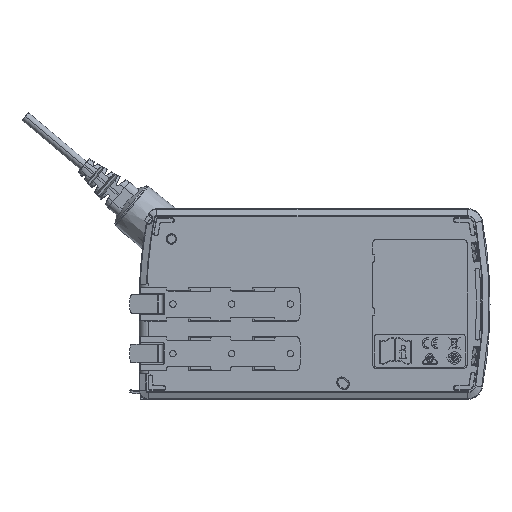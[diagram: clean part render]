
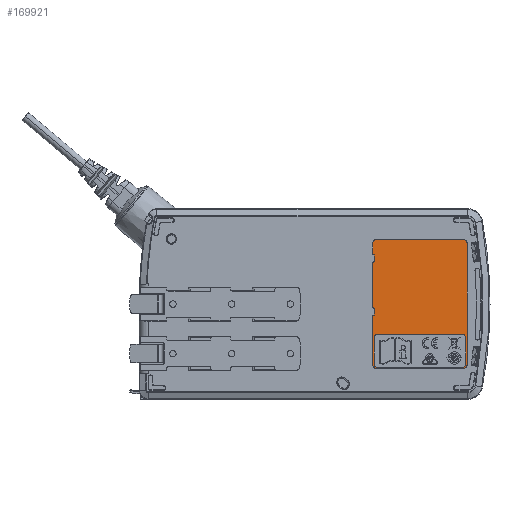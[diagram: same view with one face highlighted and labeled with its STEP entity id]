
A CAD part, front view. The second image highlights one B-rep face of the part: STEP entity #169921.
In plain terms, the highlighted planar face has unit normal (0, -1, 0).
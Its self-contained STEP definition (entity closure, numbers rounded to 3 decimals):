
#56695=DIRECTION('',(1.,0.,0.));
#56696=VECTOR('',#56695,56.);
#56697=CARTESIAN_POINT('',(21.5,-6.5,-42.5));
#56698=LINE('',#56697,#56696);
#56711=DIRECTION('',(0.,0.,-1.));
#56712=VECTOR('',#56711,32.);
#56713=CARTESIAN_POINT('',(18.5,-6.5,-7.5));
#56714=LINE('',#56713,#56712);
#56719=DIRECTION('',(-1.,0.,0.));
#56720=VECTOR('',#56719,0.7);
#56721=CARTESIAN_POINT('',(19.2,-6.5,-7.5));
#56722=LINE('',#56721,#56720);
#56739=DIRECTION('',(0.,0.,-1.));
#56740=VECTOR('',#56739,4.4);
#56741=CARTESIAN_POINT('',(19.5,-6.5,-2.8));
#56742=LINE('',#56741,#56740);
#56755=DIRECTION('',(1.,0.,0.));
#56756=VECTOR('',#56755,0.7);
#56757=CARTESIAN_POINT('',(18.5,-6.5,-2.5));
#56758=LINE('',#56757,#56756);
#56763=DIRECTION('',(0.,0.,-1.));
#56764=VECTOR('',#56763,30.);
#56765=CARTESIAN_POINT('',(18.5,-6.5,27.5));
#56766=LINE('',#56765,#56764);
#56775=DIRECTION('',(-1.,0.,0.));
#56776=VECTOR('',#56775,0.7);
#56777=CARTESIAN_POINT('',(19.2,-6.5,27.5));
#56778=LINE('',#56777,#56776);
#56795=DIRECTION('',(0.,0.,-1.));
#56796=VECTOR('',#56795,4.4);
#56797=CARTESIAN_POINT('',(19.5,-6.5,32.2));
#56798=LINE('',#56797,#56796);
#56811=DIRECTION('',(1.,0.,0.));
#56812=VECTOR('',#56811,0.7);
#56813=CARTESIAN_POINT('',(18.5,-6.5,32.5));
#56814=LINE('',#56813,#56812);
#56819=DIRECTION('',(0.,0.,-1.));
#56820=VECTOR('',#56819,7.);
#56821=CARTESIAN_POINT('',(18.5,-6.5,39.5));
#56822=LINE('',#56821,#56820);
#56839=DIRECTION('',(-1.,0.,0.));
#56840=VECTOR('',#56839,56.);
#56841=CARTESIAN_POINT('',(77.5,-6.5,42.5));
#56842=LINE('',#56841,#56840);
#56855=DIRECTION('',(0.,0.,1.));
#56856=VECTOR('',#56855,79.);
#56857=CARTESIAN_POINT('',(80.5,-6.5,-39.5));
#56858=LINE('',#56857,#56856);
#56859=CARTESIAN_POINT('',(77.5,-6.5,-39.5));
#56860=DIRECTION('',(0.,1.,0.));
#56861=DIRECTION('',(1.,0.,0.));
#56862=AXIS2_PLACEMENT_3D('',#56859,#56860,#56861);
#56864=CARTESIAN_POINT('',(21.5,-6.5,-39.5));
#56865=DIRECTION('',(0.,1.,0.));
#56866=DIRECTION('',(0.,0.,-1.));
#56867=AXIS2_PLACEMENT_3D('',#56864,#56865,#56866);
#56869=CARTESIAN_POINT('',(19.2,-6.5,-7.2));
#56870=DIRECTION('',(0.,-1.,0.));
#56871=DIRECTION('',(0.,0.,-1.));
#56872=AXIS2_PLACEMENT_3D('',#56869,#56870,#56871);
#56874=CARTESIAN_POINT('',(19.2,-6.5,-2.8));
#56875=DIRECTION('',(0.,-1.,0.));
#56876=DIRECTION('',(1.,0.,0.));
#56877=AXIS2_PLACEMENT_3D('',#56874,#56875,#56876);
#56879=CARTESIAN_POINT('',(19.2,-6.5,27.8));
#56880=DIRECTION('',(0.,-1.,0.));
#56881=DIRECTION('',(0.,0.,-1.));
#56882=AXIS2_PLACEMENT_3D('',#56879,#56880,#56881);
#56884=CARTESIAN_POINT('',(19.2,-6.5,32.2));
#56885=DIRECTION('',(0.,-1.,0.));
#56886=DIRECTION('',(1.,0.,0.));
#56887=AXIS2_PLACEMENT_3D('',#56884,#56885,#56886);
#56889=CARTESIAN_POINT('',(21.5,-6.5,39.5));
#56890=DIRECTION('',(0.,1.,0.));
#56891=DIRECTION('',(-1.,0.,0.));
#56892=AXIS2_PLACEMENT_3D('',#56889,#56890,#56891);
#56894=CARTESIAN_POINT('',(77.5,-6.5,39.5));
#56895=DIRECTION('',(0.,1.,0.));
#56896=DIRECTION('',(0.,0.,1.));
#56897=AXIS2_PLACEMENT_3D('',#56894,#56895,#56896);
#56899=CARTESIAN_POINT('',(21.5,-6.5,-22.));
#56900=DIRECTION('',(0.,-1.,0.));
#56901=DIRECTION('',(0.,0.,1.));
#56902=AXIS2_PLACEMENT_3D('',#56899,#56900,#56901);
#56904=DIRECTION('',(0.,0.,-1.));
#56905=VECTOR('',#56904,17.5);
#56906=CARTESIAN_POINT('',(19.5,-6.5,-22.));
#56907=LINE('',#56906,#56905);
#56908=CARTESIAN_POINT('',(21.5,-6.5,-39.5));
#56909=DIRECTION('',(0.,-1.,0.));
#56910=DIRECTION('',(-1.,0.,0.));
#56911=AXIS2_PLACEMENT_3D('',#56908,#56909,#56910);
#56913=DIRECTION('',(1.,0.,0.));
#56914=VECTOR('',#56913,56.);
#56915=CARTESIAN_POINT('',(21.5,-6.5,-41.5));
#56916=LINE('',#56915,#56914);
#56917=CARTESIAN_POINT('',(77.5,-6.5,-39.5));
#56918=DIRECTION('',(0.,-1.,0.));
#56919=DIRECTION('',(0.,0.,-1.));
#56920=AXIS2_PLACEMENT_3D('',#56917,#56918,#56919);
#56922=DIRECTION('',(0.,0.,1.));
#56923=VECTOR('',#56922,17.5);
#56924=CARTESIAN_POINT('',(79.5,-6.5,-39.5));
#56925=LINE('',#56924,#56923);
#56926=CARTESIAN_POINT('',(77.5,-6.5,-22.));
#56927=DIRECTION('',(0.,-1.,0.));
#56928=DIRECTION('',(1.,0.,0.));
#56929=AXIS2_PLACEMENT_3D('',#56926,#56927,#56928);
#56931=DIRECTION('',(-1.,0.,0.));
#56932=VECTOR('',#56931,56.);
#56933=CARTESIAN_POINT('',(77.5,-6.5,-20.));
#56934=LINE('',#56933,#56932);
#77563=CARTESIAN_POINT('',(77.5,-6.5,-42.5));
#77564=VERTEX_POINT('',#77563);
#77565=CARTESIAN_POINT('',(80.5,-6.5,-39.5));
#77566=VERTEX_POINT('',#77565);
#77567=CARTESIAN_POINT('',(21.5,-6.5,-42.5));
#77568=VERTEX_POINT('',#77567);
#77569=CARTESIAN_POINT('',(18.5,-6.5,-39.5));
#77570=VERTEX_POINT('',#77569);
#77571=CARTESIAN_POINT('',(18.5,-6.5,-7.5));
#77572=VERTEX_POINT('',#77571);
#77573=CARTESIAN_POINT('',(19.2,-6.5,-7.5));
#77574=VERTEX_POINT('',#77573);
#77575=CARTESIAN_POINT('',(19.5,-6.5,-7.2));
#77576=VERTEX_POINT('',#77575);
#77577=CARTESIAN_POINT('',(19.5,-6.5,-2.8));
#77578=VERTEX_POINT('',#77577);
#77579=CARTESIAN_POINT('',(19.2,-6.5,-2.5));
#77580=VERTEX_POINT('',#77579);
#77581=CARTESIAN_POINT('',(18.5,-6.5,-2.5));
#77582=VERTEX_POINT('',#77581);
#77583=CARTESIAN_POINT('',(18.5,-6.5,27.5));
#77584=VERTEX_POINT('',#77583);
#77585=CARTESIAN_POINT('',(19.2,-6.5,27.5));
#77586=VERTEX_POINT('',#77585);
#77587=CARTESIAN_POINT('',(19.5,-6.5,27.8));
#77588=VERTEX_POINT('',#77587);
#77589=CARTESIAN_POINT('',(19.5,-6.5,32.2));
#77590=VERTEX_POINT('',#77589);
#77591=CARTESIAN_POINT('',(19.2,-6.5,32.5));
#77592=VERTEX_POINT('',#77591);
#77593=CARTESIAN_POINT('',(18.5,-6.5,32.5));
#77594=VERTEX_POINT('',#77593);
#77595=CARTESIAN_POINT('',(18.5,-6.5,39.5));
#77596=VERTEX_POINT('',#77595);
#77597=CARTESIAN_POINT('',(21.5,-6.5,42.5));
#77598=VERTEX_POINT('',#77597);
#77599=CARTESIAN_POINT('',(77.5,-6.5,42.5));
#77600=VERTEX_POINT('',#77599);
#77601=CARTESIAN_POINT('',(80.5,-6.5,39.5));
#77602=VERTEX_POINT('',#77601);
#77603=CARTESIAN_POINT('',(21.5,-6.5,-20.));
#77604=CARTESIAN_POINT('',(19.5,-6.5,-22.));
#77605=VERTEX_POINT('',#77603);
#77606=VERTEX_POINT('',#77604);
#77607=CARTESIAN_POINT('',(19.5,-6.5,-39.5));
#77608=VERTEX_POINT('',#77607);
#77609=CARTESIAN_POINT('',(21.5,-6.5,-41.5));
#77610=VERTEX_POINT('',#77609);
#77611=CARTESIAN_POINT('',(77.5,-6.5,-41.5));
#77612=VERTEX_POINT('',#77611);
#77613=CARTESIAN_POINT('',(79.5,-6.5,-39.5));
#77614=VERTEX_POINT('',#77613);
#77615=CARTESIAN_POINT('',(79.5,-6.5,-22.));
#77616=VERTEX_POINT('',#77615);
#77617=CARTESIAN_POINT('',(77.5,-6.5,-20.));
#77618=VERTEX_POINT('',#77617);
#169876=CARTESIAN_POINT('',(49.5,-6.5,0.));
#169877=DIRECTION('',(0.,1.,0.));
#169878=DIRECTION('',(1.,0.,0.));
#169879=AXIS2_PLACEMENT_3D('',#169876,#169877,#169878);
#169880=PLANE('',#169879);
#169881=ORIENTED_EDGE('',*,*,#169604,.T.);
#169882=ORIENTED_EDGE('',*,*,#169619,.F.);
#169883=ORIENTED_EDGE('',*,*,#169633,.T.);
#169884=ORIENTED_EDGE('',*,*,#169647,.F.);
#169885=ORIENTED_EDGE('',*,*,#169661,.F.);
#169886=ORIENTED_EDGE('',*,*,#169675,.T.);
#169887=ORIENTED_EDGE('',*,*,#169689,.F.);
#169888=ORIENTED_EDGE('',*,*,#169703,.T.);
#169889=ORIENTED_EDGE('',*,*,#169717,.F.);
#169890=ORIENTED_EDGE('',*,*,#169731,.F.);
#169891=ORIENTED_EDGE('',*,*,#169745,.F.);
#169892=ORIENTED_EDGE('',*,*,#169759,.T.);
#169893=ORIENTED_EDGE('',*,*,#169773,.F.);
#169894=ORIENTED_EDGE('',*,*,#169787,.T.);
#169895=ORIENTED_EDGE('',*,*,#169801,.F.);
#169896=ORIENTED_EDGE('',*,*,#169815,.F.);
#169897=ORIENTED_EDGE('',*,*,#169829,.T.);
#169898=ORIENTED_EDGE('',*,*,#169843,.F.);
#169899=ORIENTED_EDGE('',*,*,#169857,.T.);
#169900=ORIENTED_EDGE('',*,*,#169870,.F.);
#169901=EDGE_LOOP('',(#169881,#169882,#169883,#169884,#169885,#169886,#169887,
#169888,#169889,#169890,#169891,#169892,#169893,#169894,#169895,#169896,#169897,
#169898,#169899,#169900));
#169902=FACE_OUTER_BOUND('',#169901,.F.);
#169904=ORIENTED_EDGE('',*,*,#169903,.T.);
#169906=ORIENTED_EDGE('',*,*,#169905,.T.);
#169908=ORIENTED_EDGE('',*,*,#169907,.T.);
#169910=ORIENTED_EDGE('',*,*,#169909,.T.);
#169912=ORIENTED_EDGE('',*,*,#169911,.T.);
#169914=ORIENTED_EDGE('',*,*,#169913,.T.);
#169916=ORIENTED_EDGE('',*,*,#169915,.T.);
#169918=ORIENTED_EDGE('',*,*,#169917,.T.);
#169919=EDGE_LOOP('',(#169904,#169906,#169908,#169910,#169912,#169914,#169916,
#169918));
#169920=FACE_BOUND('',#169919,.F.);
#56863=CIRCLE('',#56862,3.);
#56868=CIRCLE('',#56867,3.);
#56873=CIRCLE('',#56872,0.3);
#56878=CIRCLE('',#56877,0.3);
#56883=CIRCLE('',#56882,0.3);
#56888=CIRCLE('',#56887,0.3);
#56893=CIRCLE('',#56892,3.);
#56898=CIRCLE('',#56897,3.);
#56903=CIRCLE('',#56902,2.);
#56912=CIRCLE('',#56911,2.);
#56921=CIRCLE('',#56920,2.);
#56930=CIRCLE('',#56929,2.);
#169604=EDGE_CURVE('',#77566,#77564,#56863,.T.);
#169619=EDGE_CURVE('',#77568,#77564,#56698,.T.);
#169633=EDGE_CURVE('',#77568,#77570,#56868,.T.);
#169647=EDGE_CURVE('',#77572,#77570,#56714,.T.);
#169661=EDGE_CURVE('',#77574,#77572,#56722,.T.);
#169675=EDGE_CURVE('',#77574,#77576,#56873,.T.);
#169689=EDGE_CURVE('',#77578,#77576,#56742,.T.);
#169703=EDGE_CURVE('',#77578,#77580,#56878,.T.);
#169717=EDGE_CURVE('',#77582,#77580,#56758,.T.);
#169731=EDGE_CURVE('',#77584,#77582,#56766,.T.);
#169745=EDGE_CURVE('',#77586,#77584,#56778,.T.);
#169759=EDGE_CURVE('',#77586,#77588,#56883,.T.);
#169773=EDGE_CURVE('',#77590,#77588,#56798,.T.);
#169787=EDGE_CURVE('',#77590,#77592,#56888,.T.);
#169801=EDGE_CURVE('',#77594,#77592,#56814,.T.);
#169815=EDGE_CURVE('',#77596,#77594,#56822,.T.);
#169829=EDGE_CURVE('',#77596,#77598,#56893,.T.);
#169843=EDGE_CURVE('',#77600,#77598,#56842,.T.);
#169857=EDGE_CURVE('',#77600,#77602,#56898,.T.);
#169870=EDGE_CURVE('',#77566,#77602,#56858,.T.);
#169903=EDGE_CURVE('',#77605,#77606,#56903,.T.);
#169905=EDGE_CURVE('',#77606,#77608,#56907,.T.);
#169907=EDGE_CURVE('',#77608,#77610,#56912,.T.);
#169909=EDGE_CURVE('',#77610,#77612,#56916,.T.);
#169911=EDGE_CURVE('',#77612,#77614,#56921,.T.);
#169913=EDGE_CURVE('',#77614,#77616,#56925,.T.);
#169915=EDGE_CURVE('',#77616,#77618,#56930,.T.);
#169917=EDGE_CURVE('',#77618,#77605,#56934,.T.);
#169921=ADVANCED_FACE('',(#169902,#169920),#169880,.F.);
